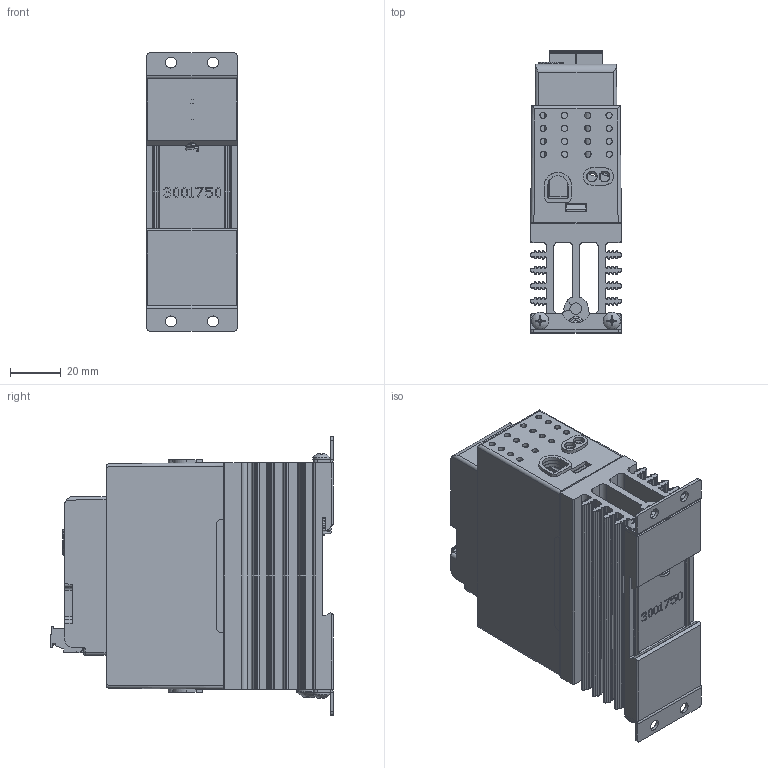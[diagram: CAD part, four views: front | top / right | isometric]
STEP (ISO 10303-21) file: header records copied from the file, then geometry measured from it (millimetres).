
FILE_DESCRIPTION(/* description */ (''),/* implementation_level */ '2;1');
FILE_NAME(/* name */ '1-phase Analog 25A.stp',/* time_stamp */ '2024-10-29T14:08:14-05:00',/* author */ ('ErikG'),/* organization */ (''),/* preprocessor_version */ 'ST-DEVELOPER v20',/* originating_system */ 'Autodesk Inventor 2025',/* authorisation */ '');
FILE_SCHEMA (('AUTOMOTIVE_DESIGN { 1 0 10303 214 3 1 1 }'));
Products named in the file (22): 3001631e; 3001757; 1001578K; P1; fci 6 pin header OQ06120000J0G; fci 6 pin headerOQ06120000J0G half 1; fci 5 pin header OQ05120000J0G half 2; fci 6 pin connector TS06110B00J0G; fci 5 pin connector TS05110B00J0G LEFT HALF; fci 5 pin connector TS05110B00J0G RIGHT HALF; P4; usb-c31-s-vt-cs4-bk-pp-t-r-model ADAMTECH; 3001759; 3001760; 3001755; 3001756; 3001750; 0060702-1032-0375; spring; 0060783-0610-010.ipt; 3001752; 0060002-0632-0375
Assembly tree (26 placements, depth 6):
  3001631e
    3001757
    1001578K
      P1
        fci 6 pin header OQ06120000J0G
          fci 6 pin headerOQ06120000J0G half 1
          fci 5 pin header OQ05120000J0G half 2
          fci 6 pin connector TS06110B00J0G
            fci 5 pin connector TS05110B00J0G LEFT HALF
            fci 5 pin connector TS05110B00J0G RIGHT HALF
      P4
        usb-c31-s-vt-cs4-bk-pp-t-r-model ADAMTECH
    3001759
    3001760  x2
    3001755
    3001756
    3001750
    0060702-1032-0375
    spring
    0060783-0610-010.ipt
    3001752  x2
    0060002-0632-0375  x4
Bounding box: 35.56 x 110.89 x 109.22 mm (x, y, z)
Volume: 124477.2 mm3; surface area: 125351.7 mm2
Topology: 22 solids, 112 shells, 5013 faces, 13667 edges, 8955 vertices
Faces by surface type: plane 3717, cylinder 910, cone 244, torus 74, bspline 61, sphere 7
Full cylindrical faces by diameter (mm): 0.254 x1, 0.45 x2, 0.55 x2, 0.65 x2, 1 x2, 2.3 x12, 2.54 x2, 2.642 x3, 2.95 x6, 3.277 x2, 3.505 x4, 4.318 x8, 4.826 x1, 4.917 x1, 6 x1, 6.172 x1, 6.858 x4, 7.976 x1, 9.474 x1
Entity records: 168414 total; most frequent: CARTESIAN_POINT 43610, ORIENTED_EDGE 26508, DIRECTION 24742, EDGE_CURVE 13254, LINE 10146, VECTOR 10146, VERTEX_POINT 8689, AXIS2_PLACEMENT_3D 7298
